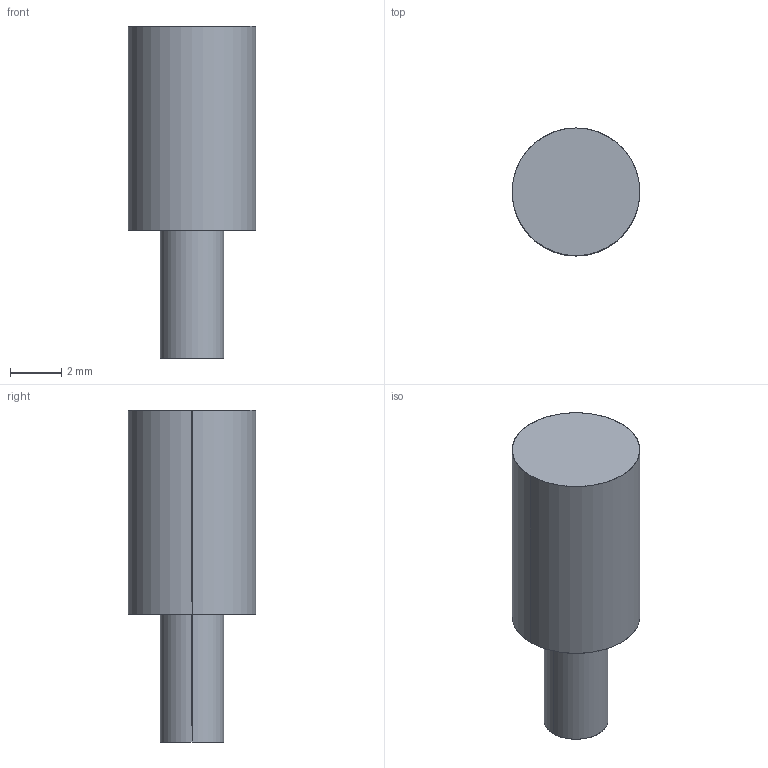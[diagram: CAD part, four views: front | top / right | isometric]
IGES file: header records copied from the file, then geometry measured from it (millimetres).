
Start section: SolidWorks IGES file using analytic representation for surfaces
Global section: file name: C:\Users\panasonic\Desktop\catalog\3d\tr-s411-k\tr-s411-k.IGS; native system: SolidWorks 2014; preprocessor: SolidWorks 2014; author: C0909; date: 161007.111129; units: millimetre
Bounding box: 5 x 5 x 13 mm (x, y, z)
Surface area: 204.2 mm2 (no closed solid volume)
Topology: 0 solids, 0 shells, 7 faces, 144 edges, 144 vertices
Faces by surface type: revolution 4, bspline 3
